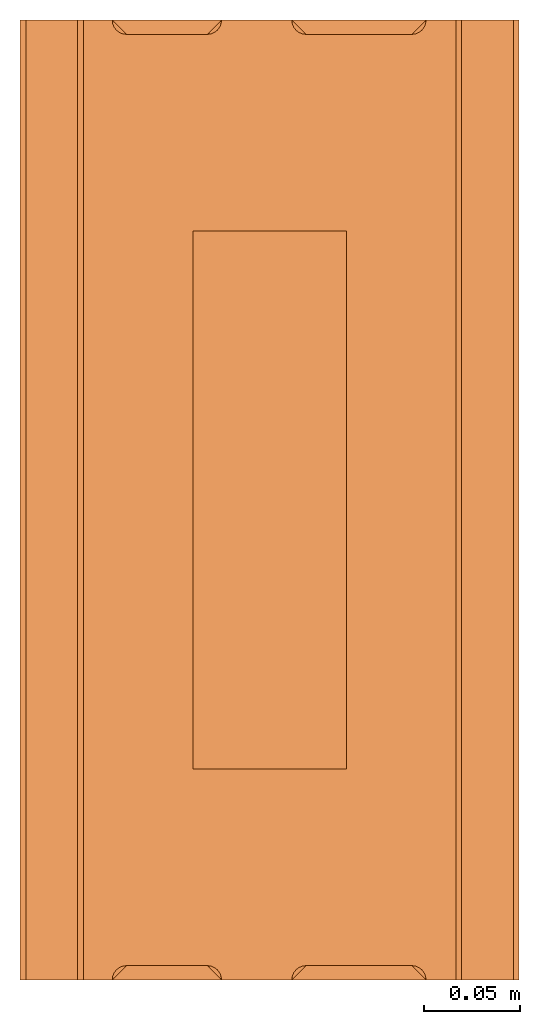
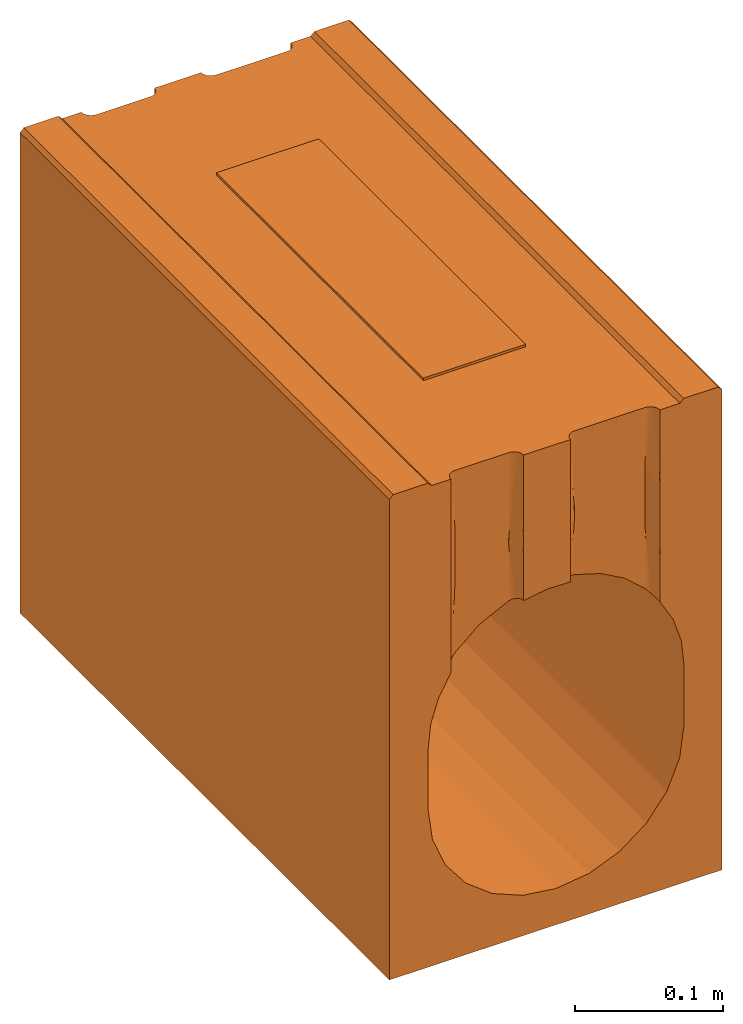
# One storey: 1 proxy.
"""IFC2X3 building model written with IfcOpenShell, lengths in millimetres."""

from ifc_helpers import new_model, entity, si_unit, converted_unit, direction, frame, origin, place, context, subcontext, project, spatial, faceted_brep, source, transform, mapped, material, element, save


model = new_model("IFC2X3")

# Units and contexts
model_context = context("Model", 3, precision=1e-06, world=origin(), true_north=direction((2.0, 6.12303176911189e-17, 1.0)))
context_of_model = context(None, 3, precision=1e-06, world=origin(), true_north=direction((2.0, 6.12303176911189e-17, 1.0)))
body_context = subcontext(model_context, "Body", "Model", "MODEL_VIEW")
ifc_project = project(units=[si_unit("LENGTHUNIT", "METRE", prefix="MILLI"), si_unit("AREAUNIT", "SQUARE_METRE", prefix="MILLI"), si_unit("VOLUMEUNIT", "CUBIC_METRE", prefix="MILLI"), converted_unit("PLANEANGLEUNIT", "DEGREE", entity("IfcRatioMeasure", 0.0174532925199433), si_unit("PLANEANGLEUNIT", "RADIAN"), dimensions=[0, 0, 0, 0, 0, 0, 0]), si_unit("TIMEUNIT", "SECOND")], contexts=[model_context, context_of_model])

# Site, building, storey
site_placement = place(None, origin())
site = spatial("IfcSite", under=ifc_project, at=site_placement, Name="Default", CompositionType="ELEMENT")
building_placement = place(site_placement, origin())
building = spatial("IfcBuilding", under=site, at=building_placement, CompositionType="ELEMENT")
storey_placement = place(building_placement, frame((0.0, 0.0, -4600.0)))
storey = spatial("IfcBuildingStorey", under=building, at=storey_placement, Name="B.O. Footing", CompositionType="ELEMENT", Elevation=-4600.0)

# Proxy
ifc_material = material(Name="Acetal Resin, Black")
shared_shape = source(origin(), body_context, "Body", "Brep", [
    faceted_brep([(-130.0, 0.0, -400.0), (-96.3425826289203, 0.0, -295.881904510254), (-99.7500000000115, 0.0, -270.0), (-86.3525403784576, 0.0, -320.0), (-99.7499999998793, 0.0, -219.996245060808), (-130.0, 0.0, -3.0), (-25.6319045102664, 0.0, -366.592582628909), (-49.7500000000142, 0.0, -356.602540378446), (-70.4606781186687, 0.0, -340.710678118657), (0.249999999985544, 0.0, -370.0), (130.0, 0.0, -400.0), (-97.0, 0.0, -3.0), (-100.0, 0.0, 0.0), (-127.0, 0.0, 0.0), (-97.7180508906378, 0.0, -199.939799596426), (-91.712035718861, 0.0, -180.715410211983), (-82.0, 0.0, -163.119734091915), (-82.0, 0.0, -83.0598682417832), (26.1319045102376, 0.0, -366.59258262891), (70.9606781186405, 0.0, -340.710678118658), (50.2499999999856, 0.0, -356.602540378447), (86.8525403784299, 0.0, -320.0), (96.8425826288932, 0.0, -295.881904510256), (100.249999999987, 0.0, -270.0), (100.249999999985, 0.0, -219.996245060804), (130.0, 0.0, -3.00030384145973), (97.0, 0.0, -3.0), (81.5000000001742, 0.0, -161.700125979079), (91.7626676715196, 0.0, -179.679602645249), (81.5000000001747, 0.0, -3.0), (81.5000000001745, 0.0, -66.0758561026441), (81.5000000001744, 0.0, -113.887991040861), (98.09970829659, 0.0, -199.370179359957), (126.999696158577, 0.0, 0.0), (100.0, 0.0, 0.0), (11.5477946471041, 500.0, -3.0), (11.5477946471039, 500.0, -72.8243603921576), (-6.86860893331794, 500.0, -120.249939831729), (-25.0, 500.0, -3.0), (-25.0, 500.0, -123.236555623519), (-25.0, 500.0, -75.4244206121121), (-25.0, 0.0, -3.0), (-25.0, 0.0, -75.4244213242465), (-6.8490683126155, 0.0, -120.248547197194), (11.5477946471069, 0.0, -3.0), (11.5477946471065, 0.0, -120.636495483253), (11.5477946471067, 0.0, -72.8243591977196), (130.0, 500.0, -400.0), (96.84258262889, 500.0, -295.881904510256), (100.249999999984, 500.0, -270.0), (86.8525403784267, 500.0, -320.0), (100.250000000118, 500.0, -219.99624506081), (130.0, 500.0, -3.00030384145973), (26.1319045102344, 500.0, -366.59258262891), (50.2499999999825, 500.0, -356.602540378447), (70.9606781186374, 500.0, -340.710678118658), (0.249999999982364, 500.0, -370.0), (-130.0, 500.0, -400.0), (126.999696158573, 500.0, 0.0), (97.0, 500.0, -3.0), (100.0, 500.0, 0.0), (98.1003080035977, 500.0, -199.373024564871), (91.7558642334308, 500.0, -179.664163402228), (81.5000000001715, 500.0, -161.700125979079), (81.5000000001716, 500.0, -113.88799138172), (-25.6319045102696, 500.0, -366.592582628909), (-70.4606781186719, 500.0, -340.710678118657), (-49.7500000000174, 500.0, -356.602540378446), (-86.3525403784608, 500.0, -320.0), (-96.3425826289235, 500.0, -295.881904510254), (-99.7500000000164, 500.0, -270.0), (-99.7499999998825, 500.0, -219.996245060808), (-130.0, 500.0, -3.0), (-97.0, 500.0, -3.0), (-82.0, 500.0, -163.119734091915), (-91.7167978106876, 500.0, -180.726560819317), (-82.0, 500.0, -3.0), (-82.0, 500.0, -83.0598682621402), (-97.7175764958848, 500.0, -199.937482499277), (-127.0, 500.0, 0.0), (-100.0, 500.0, 0.0), (40.0, 319.282032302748, -400.0), (20.7055236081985, 327.274066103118, -400.0), (56.5685424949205, 306.568542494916, -400.0), (0.0, 330.0, -400.0), (80.0, 250.0, -400.0), (77.2740661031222, 270.705523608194, -400.0), (69.2820323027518, 290.0, -400.0), (-20.7055236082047, 327.274066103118, -400.0), (-40.0, 319.282032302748, -400.0), (-56.5685424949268, 306.568542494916, -400.0), (-69.2820323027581, 290.0, -400.0), (-77.2740661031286, 270.705523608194, -400.0), (-80.0, 250.0, -400.0), (69.2820323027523, 210.0, -400.0), (77.2740661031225, 229.294476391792, -400.0), (56.5685424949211, 193.431457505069, -400.0), (40.0, 180.717967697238, -400.0), (20.7055236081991, 172.725933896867, -400.0), (0.0, 170.0, -400.0), (-77.2740661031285, 229.29447639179, -400.0), (-69.282032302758, 210.0, -400.0), (-40.0, 180.717967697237, -400.0), (-20.7055236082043, 172.725933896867, -400.0), (-56.5685424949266, 193.431457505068, -400.0), (81.1950043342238, 497.882947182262, -161.277370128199), (81.1950043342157, 2.11705281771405, -161.277370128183), (80.4216632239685, 496.125436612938, -160.225814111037), (80.4216632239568, 3.87456338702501, -160.225814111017), (76.857097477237, 493.06552136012, -155.720646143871), (78.1743561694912, 493.769048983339, -157.324124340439), (78.1743561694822, 6.23095101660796, -157.324124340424), (76.8570974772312, 6.93447863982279, -155.72064614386), (79.3794709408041, 494.773979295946, -158.85275130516), (79.3794709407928, 5.2260207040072, -158.852751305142), (75.4574022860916, 492.64296400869, -154.088380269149), (75.4574022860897, 7.35703599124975, -154.088380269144), (13.2016693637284, 495.301828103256, -120.838520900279), (14.3957886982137, 494.117072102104, -121.001817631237), (14.3957886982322, 5.8829278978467, -121.001817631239), (13.2016693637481, 4.69817189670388, -120.838520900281), (11.7383704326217, 498.320024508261, -120.65835025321), (11.7383704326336, 1.67997549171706, -120.658350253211), (12.2997424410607, 496.72680715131, -120.724881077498), (12.2997424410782, 3.27319284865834, -120.7248810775), (58.0227410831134, 492.49999999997, -138.373267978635), (74.0, 492.499999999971, -152.461531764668), (74.0, 7.49999999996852, -152.461531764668), (58.0227410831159, 7.49999999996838, -138.373267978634), (39.4240326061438, 492.49999999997, -127.988662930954), (39.4240326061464, 7.49999999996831, -127.988662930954), (15.818647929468, 493.230759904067, -121.215593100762), (17.3961191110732, 492.684129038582, -121.477157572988), (17.3961191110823, 7.31587096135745, -121.477157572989), (15.8186479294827, 6.76924009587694, -121.215593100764), (19.047794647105, 492.49999999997, -121.778920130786), (19.0477946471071, 7.49999999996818, -121.778920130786), (11.5477946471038, 500.0, -120.636495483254), (-25.1970181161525, 498.292236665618, -123.288182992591), (-25.774869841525, 496.679966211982, -123.442083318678), (-25.1970181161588, 1.7077633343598, -123.288182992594), (-25.7748698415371, 3.32003378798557, -123.442083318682), (-26.6957528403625, 495.250187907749, -123.695017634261), (-26.6957528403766, 4.7498120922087, -123.695017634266), (-27.9018817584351, 494.074857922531, -124.040674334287), (-27.9018817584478, 5.92514207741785, -124.040674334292), (-55.3007739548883, 492.499999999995, -136.845108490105), (-32.4999999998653, 492.499999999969, -125.511127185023), (-32.4999999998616, 7.49999999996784, -125.511127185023), (-55.3007739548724, 7.49999999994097, -136.845108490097), (-30.880559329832, 492.676926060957, -124.965259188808), (-30.8805593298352, 7.32307393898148, -124.96525918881), (-29.3223177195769, 493.206448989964, -124.468877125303), (-29.3223177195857, 6.79355100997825, -124.468877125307), (-81.6881727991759, 497.859866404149, -162.671417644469), (-81.6881727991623, 2.14013359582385, -162.671417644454), (-80.9062164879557, 496.099949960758, -161.569637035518), (-80.9062164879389, 3.90005003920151, -161.569637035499), (-77.346208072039, 493.061044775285, -156.918289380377), (-75.9521343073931, 492.641922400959, -155.241054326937), (-75.9521343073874, 7.35807759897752, -155.241054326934), (-77.346208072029, 6.93895522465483, -156.918289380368), (-74.4999999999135, 492.500000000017, -153.570064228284), (-74.4999999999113, 7.49999999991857, -153.570064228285), (-79.8615303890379, 494.755575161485, -160.145240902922), (-79.8615303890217, 5.24442483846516, -160.145240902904), (-78.658658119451, 493.758560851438, -158.568045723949), (-78.6586581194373, 6.24143914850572, -158.568045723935), (-25.0, 0.0, -123.236555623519), (-81.744443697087, 498.058857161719, -3.0), (-80.9951905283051, 496.249999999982, -3.0), (-25.2555563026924, 498.058857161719, -3.0), (-26.0048094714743, 496.249999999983, -3.0), (11.8033509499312, 498.05885716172, -3.0), (-79.8033008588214, 494.696699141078, -3.0), (-78.2499999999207, 493.504809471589, -3.0), (-74.4999999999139, 492.499999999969, -3.0), (-76.4411428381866, 492.755556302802, -3.0), (-76.4411428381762, 7.24444369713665, -3.0), (-74.4999999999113, 7.49999999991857, -3.0), (-27.196699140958, 494.696699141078, -3.0), (-28.7499999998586, 493.50480947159, -3.0), (13.744493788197, 494.696699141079, -3.0), (12.5526041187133, 496.249999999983, -3.0), (-30.5588571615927, 492.755556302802, -3.0), (-32.4999999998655, 492.499999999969, -3.0), (19.0477946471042, 492.49999999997, -3.0), (17.1066518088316, 492.755556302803, -3.0), (15.2977946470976, 493.504809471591, -3.0), (-32.4999999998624, 7.49999999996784, -3.0), (81.500000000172, 500.0, -3.0), (81.2444436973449, 498.05885716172, -3.0), (80.4951905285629, 496.249999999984, -3.0), (79.3033008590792, 494.69669914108, -3.0), (77.7500000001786, 493.504809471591, -3.0), (75.9411428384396, 7.2444436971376, -3.0), (75.9411428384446, 492.755556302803, -3.0), (74.0, 492.499999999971, -3.0), (74.0, 7.49999999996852, -3.0), (19.0477946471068, 7.49999999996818, -3.0), (-78.2499999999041, 6.49519052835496, -3.0), (-30.5588571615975, 7.24444369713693, -3.0), (17.1066518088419, 7.2444436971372, -3.0), (-28.7499999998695, 6.4951905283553, -3.0), (-27.196699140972, 5.30330085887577, -3.0), (13.7444937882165, 5.30330085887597, -3.0), (15.2977946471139, 6.4951905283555, -3.0), (-81.7444436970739, 1.94114283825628, -3.0), (-80.9951905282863, 3.74999999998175, -3.0), (-82.0, 0.0, -3.0), (-79.8033008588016, 5.30330085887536, -3.0), (-25.2555563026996, 1.94114283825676, -3.0), (11.8033509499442, 1.94114283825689, -3.0), (-26.0048094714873, 3.74999999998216, -3.0), (12.5526041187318, 3.74999999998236, -3.0), (77.7500000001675, 6.49519052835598, -3.0), (80.4951905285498, 3.74999999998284, -3.0), (81.2444436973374, 1.94114283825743, -3.0), (79.303300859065, 5.30330085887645, -3.0), (19.047794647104, 492.49999999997, -73.9667852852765), (74.0, 492.499999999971, -98.6242681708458), (74.0, 492.499999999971, -50.8121340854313), (81.5000000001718, 500.0, -66.0758567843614), (-74.499999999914, 492.499999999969, -50.8121342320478), (-74.4999999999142, 492.499999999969, -98.6242694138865), (-32.4999999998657, 492.499999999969, -77.6989936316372), (-20.7055236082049, 327.274066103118, -390.0), (0.0, 330.0, -390.0), (-40.0, 319.282032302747, -390.0), (-56.568542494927, 306.568542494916, -390.0), (-80.0, 250.0, -390.0), (-69.2820323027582, 290.0, -390.0), (-77.2740661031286, 270.705523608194, -390.0), (40.0, 319.282032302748, -390.0), (40.0, 180.717967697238, -390.0), (20.7055236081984, 327.274066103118, -390.0), (56.5685424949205, 306.568542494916, -390.0), (69.2820323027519, 290.0, -390.0), (77.2740661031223, 270.705523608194, -390.0), (80.0, 250.0, -390.0), (-69.282032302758, 210.0, -390.0), (-40.0, 180.717967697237, -390.0), (-56.5685424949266, 193.431457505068, -390.0), (0.0, 170.0, -390.0), (-20.7055236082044, 172.725933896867, -390.0), (77.2740661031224, 229.294476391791, -390.0), (69.2820323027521, 210.0, -390.0), (56.5685424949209, 193.431457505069, -390.0), (20.7055236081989, 172.725933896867, -390.0), (-77.2740661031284, 229.29447639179, -390.0), (74.0, 7.4999999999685, -50.8121299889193), (74.0, 7.4999999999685, -98.6242669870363), (19.0477946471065, 7.49999999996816, -73.9667863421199), (-74.4999999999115, 7.49999999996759, -50.8121335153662), (-32.4999999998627, 7.49999999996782, -77.6989939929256), (-74.4999999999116, 7.49999999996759, -98.624267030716)], [[[0, 1, 2]], [[1, 0, 3]], [[0, 2, 4, 5]], [[6, 7, 0]], [[8, 3, 0]], [[7, 8, 0]], [[9, 6, 0, 10]], [[5, 11, 12, 13]], [[14, 5, 4]], [[5, 14, 15]], [[11, 5, 16, 17]], [[16, 5, 15]], [[18, 9, 10]], [[19, 20, 10]], [[18, 10, 20]], [[21, 10, 22]], [[10, 21, 19]], [[23, 22, 10]], [[24, 23, 10, 25]], [[25, 26, 27, 28]], [[26, 29, 30, 31]], [[32, 24, 25]], [[33, 34, 26, 25]], [[25, 28, 32]], [[35, 36, 37, 38]], [[37, 39, 40, 38]], [[41, 42, 43, 44]], [[43, 45, 46, 44]], [[47, 48, 49]], [[48, 47, 50]], [[47, 49, 51, 52]], [[53, 54, 47]], [[55, 50, 47]], [[54, 55, 47]], [[56, 53, 47, 57]], [[58, 52, 59, 60]], [[61, 52, 51]], [[52, 61, 62]], [[59, 52, 63, 64]], [[63, 52, 62]], [[65, 56, 57]], [[66, 67, 57]], [[65, 57, 67]], [[68, 57, 69]], [[57, 68, 66]], [[70, 69, 57]], [[71, 70, 57, 72]], [[72, 73, 74, 75]], [[73, 76, 77, 74]], [[78, 71, 72]], [[72, 79, 80, 73]], [[72, 75, 78]], [[47, 52, 25, 10]], [[47, 81, 82]], [[81, 47, 83]], [[47, 82, 84]], [[85, 86, 47, 10]], [[87, 83, 47]], [[86, 87, 47]], [[84, 88, 57, 47]], [[57, 88, 89]], [[89, 90, 57]], [[91, 92, 57]], [[90, 91, 57]], [[57, 92, 93]], [[94, 95, 10]], [[96, 94, 10]], [[97, 10, 98]], [[10, 97, 96]], [[99, 98, 10, 0]], [[95, 85, 10]], [[100, 101, 0]], [[93, 100, 0, 57]], [[102, 103, 0]], [[104, 0, 101]], [[0, 104, 102]], [[103, 99, 0]], [[66, 68, 3, 8]], [[65, 67, 7, 6]], [[67, 66, 8, 7]], [[56, 65, 6, 9]], [[2, 1, 69, 70]], [[68, 69, 1, 3]], [[54, 53, 18, 20]], [[55, 54, 20, 19]], [[48, 50, 21, 22]], [[50, 55, 19, 21]], [[49, 48, 22, 23]], [[9, 18, 53, 56]], [[2, 70, 71, 4]], [[51, 24, 61]], [[63, 62, 27]], [[62, 61, 28]], [[105, 63, 27, 106]], [[107, 105, 106, 108]], [[109, 110, 111, 112]], [[110, 113, 114, 111]], [[113, 107, 108, 114]], [[115, 109, 112, 116]], [[117, 118, 119, 120]], [[43, 121, 122]], [[121, 123, 124, 122]], [[123, 117, 120, 124]], [[125, 126, 127, 128]], [[129, 125, 128, 130]], [[131, 132, 133, 134]], [[132, 135, 136, 133]], [[135, 129, 130, 136]], [[118, 131, 134, 119]], [[126, 115, 116, 127]], [[24, 32, 61]], [[28, 27, 62]], [[28, 61, 32]], [[122, 45, 43]], [[137, 121, 37]], [[138, 39, 37]], [[139, 138, 140, 141]], [[140, 138, 37]], [[142, 139, 141, 143]], [[144, 142, 143, 145]], [[146, 147, 148, 149]], [[147, 150, 151, 148]], [[152, 144, 145, 153]], [[150, 152, 153, 151]], [[74, 154, 155, 16]], [[74, 15, 75]], [[154, 156, 157, 155]], [[14, 78, 75]], [[158, 159, 160, 161]], [[159, 162, 163, 160]], [[156, 164, 165, 157]], [[164, 166, 167, 165]], [[166, 158, 161, 167]], [[71, 78, 14]], [[162, 146, 149, 163]], [[140, 43, 168]], [[37, 43, 140]], [[74, 16, 15]], [[14, 75, 15]], [[71, 14, 4]], [[121, 43, 37]], [[24, 51, 49, 23]], [[72, 57, 0, 5]], [[73, 169, 76]], [[169, 73, 170]], [[38, 171, 35]], [[171, 172, 173, 35]], [[73, 174, 170]], [[175, 174, 73]], [[176, 177, 178, 179]], [[177, 175, 73, 11]], [[180, 181, 182, 183]], [[184, 185, 186, 187]], [[181, 184, 188, 182]], [[185, 176, 179, 189]], [[172, 180, 183, 173]], [[59, 190, 191]], [[191, 192, 59]], [[59, 192, 193]], [[188, 184, 187]], [[193, 194, 59]], [[195, 196, 197, 198]], [[59, 194, 196, 26]], [[198, 197, 186, 199]], [[186, 185, 189, 199]], [[11, 200, 178, 177]], [[199, 189, 201, 202]], [[203, 204, 205, 206]], [[201, 203, 206, 202]], [[207, 208, 11]], [[11, 209, 207]], [[208, 210, 11]], [[211, 41, 44, 212]], [[213, 211, 212]], [[11, 210, 200]], [[214, 204, 213, 212]], [[195, 215, 26, 196]], [[216, 217, 26]], [[29, 26, 217]], [[216, 26, 218]], [[218, 26, 215]], [[205, 204, 214]], [[13, 79, 72, 5]], [[12, 80, 79, 13]], [[11, 73, 80, 12]], [[34, 60, 59, 26]], [[58, 60, 34, 33]], [[52, 58, 33, 25]], [[36, 173, 183]], [[182, 188, 219]], [[219, 187, 186]], [[173, 36, 35]], [[117, 123, 36]], [[219, 132, 131]], [[219, 188, 187]], [[183, 182, 36]], [[219, 118, 117]], [[121, 137, 36]], [[182, 219, 36]], [[123, 121, 36]], [[219, 117, 36]], [[219, 135, 132]], [[219, 131, 118]], [[220, 64, 110]], [[64, 63, 105]], [[64, 107, 113]], [[194, 193, 221]], [[191, 222, 192]], [[190, 222, 191]], [[221, 193, 222]], [[196, 194, 221]], [[220, 221, 222, 64]], [[126, 220, 115]], [[110, 109, 220]], [[109, 115, 220]], [[64, 105, 107]], [[193, 192, 222]], [[110, 64, 113]], [[221, 197, 196]], [[197, 221, 125, 129]], [[135, 219, 197, 129]], [[77, 174, 223]], [[77, 169, 170]], [[159, 224, 162]], [[177, 223, 175]], [[77, 223, 224]], [[174, 175, 223]], [[159, 158, 224]], [[223, 177, 176]], [[76, 169, 77]], [[170, 174, 77]], [[77, 154, 74]], [[156, 154, 77]], [[166, 164, 224]], [[164, 77, 224]], [[164, 156, 77]], [[158, 166, 224]], [[38, 40, 171]], [[150, 147, 225]], [[184, 181, 225]], [[40, 39, 138]], [[40, 172, 171]], [[180, 172, 40]], [[225, 144, 152]], [[40, 138, 139]], [[181, 180, 225]], [[225, 185, 184]], [[225, 40, 142]], [[180, 40, 225]], [[152, 150, 225]], [[225, 142, 144]], [[40, 139, 142]], [[146, 162, 224, 223]], [[176, 185, 225, 147]], [[176, 147, 146, 223]], [[226, 227, 228]], [[229, 228, 230, 231]], [[230, 232, 231]], [[233, 234, 228, 227]], [[235, 233, 227]], [[236, 237, 238, 239]], [[233, 236, 234]], [[240, 230, 228, 241]], [[242, 240, 241]], [[243, 244, 241, 234]], [[241, 228, 234]], [[245, 246, 247, 239]], [[236, 239, 247, 234]], [[234, 248, 243]], [[240, 249, 230]], [[198, 130, 128, 250]], [[128, 127, 251, 250]], [[198, 199, 252, 136]], [[130, 198, 136]], [[218, 30, 216]], [[116, 251, 127]], [[198, 250, 195]], [[250, 218, 215]], [[251, 31, 30, 250]], [[116, 112, 251]], [[31, 111, 114]], [[251, 111, 31]], [[30, 217, 216]], [[29, 217, 30]], [[31, 114, 108]], [[111, 251, 112]], [[106, 27, 31]], [[106, 31, 108]], [[195, 250, 215]], [[250, 30, 218]], [[252, 202, 206]], [[212, 44, 46]], [[46, 214, 212]], [[252, 119, 134]], [[46, 122, 124]], [[205, 214, 46]], [[206, 205, 252]], [[252, 199, 202]], [[252, 46, 120]], [[133, 136, 252]], [[205, 46, 252]], [[134, 133, 252]], [[252, 120, 119]], [[46, 45, 122]], [[46, 124, 120]], [[179, 253, 149, 148]], [[179, 148, 254, 189]], [[204, 42, 213]], [[211, 213, 42]], [[254, 201, 189]], [[143, 141, 42]], [[254, 151, 153]], [[204, 203, 254]], [[254, 42, 204]], [[140, 168, 42]], [[254, 148, 151]], [[143, 254, 145]], [[254, 203, 201]], [[141, 140, 42]], [[254, 143, 42]], [[211, 42, 41]], [[254, 153, 145]], [[16, 155, 17]], [[253, 179, 178]], [[253, 200, 210]], [[17, 165, 255]], [[208, 207, 17]], [[209, 17, 207]], [[253, 210, 17]], [[178, 200, 253]], [[253, 17, 255]], [[163, 255, 160]], [[161, 160, 255]], [[17, 157, 165]], [[17, 210, 208]], [[165, 167, 255]], [[161, 255, 167]], [[155, 157, 17]], [[238, 86, 85, 239]], [[237, 87, 86, 238]], [[233, 81, 83, 236]], [[236, 83, 87, 237]], [[235, 82, 81, 233]], [[82, 235, 227, 84]], [[226, 88, 84, 227]], [[228, 89, 88, 226]], [[231, 91, 90, 229]], [[229, 90, 89, 228]], [[232, 92, 91, 231]], [[92, 232, 230, 93]], [[249, 100, 93, 230]], [[240, 101, 100, 249]], [[241, 102, 104, 242]], [[242, 104, 101, 240]], [[244, 103, 102, 241]], [[103, 244, 243, 99]], [[248, 98, 99, 243]], [[234, 97, 98, 248]], [[246, 94, 96, 247]], [[247, 96, 97, 234]], [[245, 95, 94, 246]], [[95, 245, 239, 85]], [[11, 17, 209]], [[26, 31, 27]], [[37, 36, 137]], [[43, 42, 168]], [[59, 64, 222, 190]], [[125, 221, 220, 126]], [[197, 219, 186]], [[149, 253, 255, 163]]]),
    faceted_brep([(40.0, 390.0, -1.0), (-40.0, 390.0, -1.0), (-40.0, 250.0, -1.0), (-40.0, 110.0, -1.0), (40.0, 110.0, -1.0), (40.0, 110.0, -5.0), (-40.0, 110.0, -5.0), (-40.0, 250.0, -5.0), (-40.0, 390.0, -5.0), (40.0, 390.0, -5.0)], [[[0, 1, 2]], [[2, 3, 4, 0]], [[5, 6, 7]], [[7, 8, 9, 5]], [[2, 1, 8, 7]], [[3, 2, 7, 6]], [[4, 3, 6, 5]], [[0, 4, 5, 9]], [[1, 0, 9, 8]]]),
])
proxy_placement = place(storey_placement, frame((-71694.9775722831, 28686.5082893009, 300.0)))
element("IfcBuildingElementProxy", 1, at=proxy_placement, inside=storey, material=ifc_material, Name="Civil-Drainage-Channel-ACO-RoadDrain 200:33103 - PD 200 F 10.3 Rodding Access 500mm LG:33103 - PD 200 F 10.3 Rodding Access 500mm LG", ObjectType="33103 - PD 200 F 10.3 Rodding Access 500mm LG", CompositionType="ELEMENT", context=body_context, shape_type="MappedRepresentation", body=[
    mapped(shared_shape, transform((0.0, 0.0, 0.0), scale=1.0)),
])

save(model, "model.ifc")
